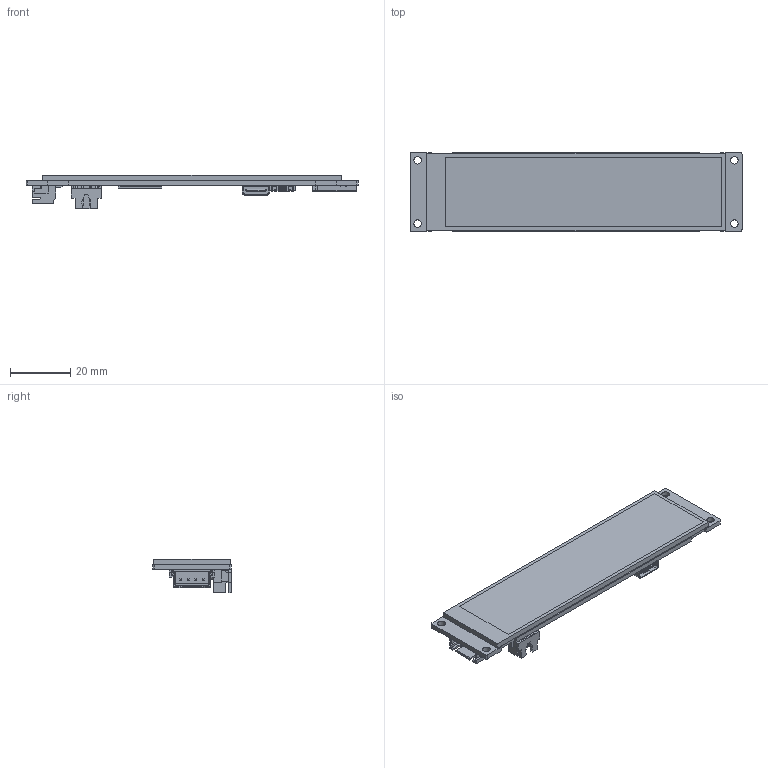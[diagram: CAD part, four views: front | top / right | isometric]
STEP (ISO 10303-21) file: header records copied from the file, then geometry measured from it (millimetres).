
FILE_DESCRIPTION(/* description */ (''),/* implementation_level */ '2;1');
FILE_NAME(/* name */ 'C:\Users\zhaoyunqi\Desktop\方案\终版\5.S371\小板\S371_S-STEP模型.stp',/* time_stamp */ '2025-12-28T12:55:01+08:00',/* author */ ('zhaoyunqi'),/* organization */ (''),/* preprocessor_version */ 'ST-DEVELOPER v18',/* originating_system */ 'Autodesk Inventor 2020',/* authorisation */ '');
FILE_SCHEMA (('AUTOMOTIVE_DESIGN { 1 0 10303 214 3 1 1 }'));
Products named in the file (14): 模型; FPC-0.3-39P; FPC-SMD_5025983993~FPC-SMD_5025983993~dkA8; FPC-0.50-6P; FPC-SMD_P0.50-6P_LCS-SJ-H2.0~FPC-SMD_P0.50-6P_LCS-SJ-H2.0~GGM5; TF; SIM-SMD_TF110-AG1-004~SIM-SMD_TF110-AG1-004~GGM5; TYPE-C-16P; USB_TYPE-C-16P~USB-C_SMD-TYPE-C-31-M-12~GGM5; XH_4P-P2.50; CONN-SMD_4P-P2.50-WT~CONN-SMD_4P-P2.50-WT~GGM5; XH2.54-2P-LT; CONN-SMD_2P-P2.54_XH2.54-2AB~CONN-SMD_XH2.54-LS-2P~dkA8; PCB
Assembly tree (13 placements, depth 3):
  模型
    FPC-0.3-39P
      FPC-SMD_5025983993~FPC-SMD_5025983993~dkA8
    FPC-0.50-6P
      FPC-SMD_P0.50-6P_LCS-SJ-H2.0~FPC-SMD_P0.50-6P_LCS-SJ-H2.0~GGM5
    TF
      SIM-SMD_TF110-AG1-004~SIM-SMD_TF110-AG1-004~GGM5
    TYPE-C-16P
      USB_TYPE-C-16P~USB-C_SMD-TYPE-C-31-M-12~GGM5
    XH_4P-P2.50
      CONN-SMD_4P-P2.50-WT~CONN-SMD_4P-P2.50-WT~GGM5
    XH2.54-2P-LT
      CONN-SMD_2P-P2.54_XH2.54-2AB~CONN-SMD_XH2.54-LS-2P~dkA8
    PCB
Bounding box: 110 x 26 x 11.2 mm (x, y, z)
Volume: 9897.1 mm3; surface area: 19973.1 mm2
Topology: 104 solids, 104 shells, 5246 faces, 14416 edges, 9400 vertices
Faces by surface type: plane 3909, bspline 738, cylinder 488, torus 110, sphere 1
Full cylindrical faces by diameter (mm): 0.511 x2, 0.731 x1, 0.8 x2, 2.5 x4
Entity records: 180373 total; most frequent: CARTESIAN_POINT 43853, ORIENTED_EDGE 28830, DIRECTION 24196, EDGE_CURVE 14415, LINE 11822, VECTOR 11822, VERTEX_POINT 9400, AXIS2_PLACEMENT_3D 6187
